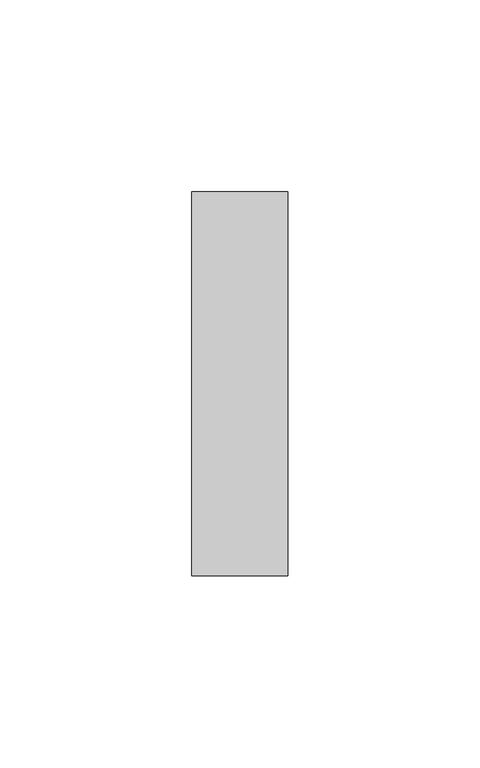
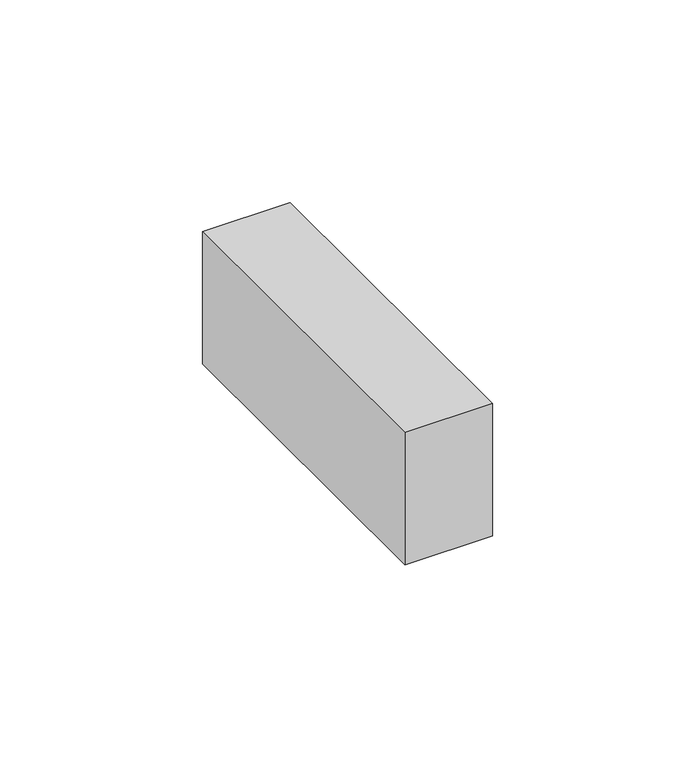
"""IFC4 building model written with IfcOpenShell, lengths in millimetres: duct fitting geometry, КНС_Заглушка_DKC : Стандартное."""

from ifc_helpers import new_model, si_unit, frame, origin, place, context, project, spatial, polyline, outline, extrude, source, transform, mapped, element, save


def duct_fitting_d4e3258a(model_context):
    return source(origin(), model_context, "Body", "SweptSolid", [
        extrude(outline(polyline([(0.0, -50.0), (0.0, 50.0), (25.0, 50.0), (25.0, -50.0), (0.0, -50.0)])), frame((0.0, 0.0, -20.0), z_axis=(0.0, 0.0, 1.0), x_axis=(1.0, 0.0, 0.0)), (0.0, 0.0, 1.0), 40.0),
    ])


if __name__ == "__main__":
    model = new_model("IFC4")
    model_context = context("Model", 3, world=origin())
    ifc_project = project(units=[si_unit("LENGTHUNIT", "METRE", prefix="MILLI")], contexts=[model_context])
    site = spatial("IfcSite", under=ifc_project)
    building = spatial("IfcBuilding", under=site)
    placement = place(None, origin())
    duct_fitting_shape = duct_fitting_d4e3258a(model_context)
    element("IfcDuctFitting", 1, ObjectType="КНС_Заглушка_DKC : Стандартное", at=placement, inside=building, context=model_context, shape_type="MappedRepresentation", body=[
        mapped(duct_fitting_shape, transform((0.0, 0.0, 0.0), x_axis=(1.0, 0.0, 0.0), y_axis=(0.0, 1.0, 0.0), z_axis=(0.0, 0.0, 1.0))),
    ])
    save(model, "model.ifc")
